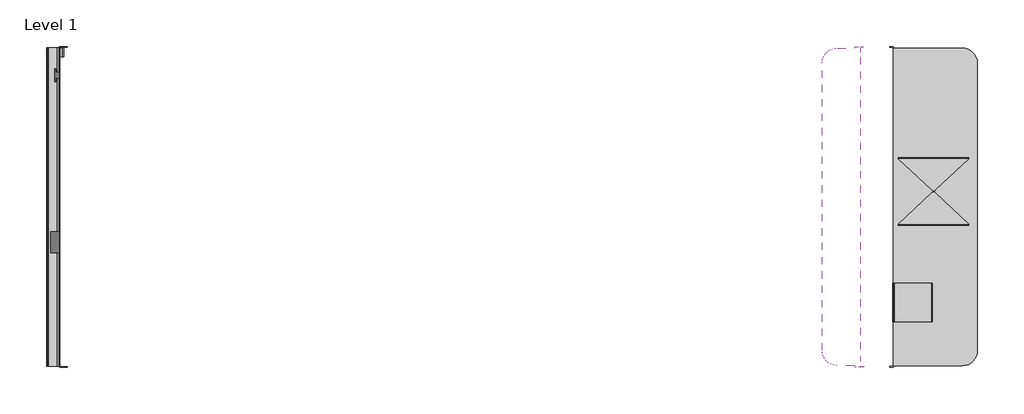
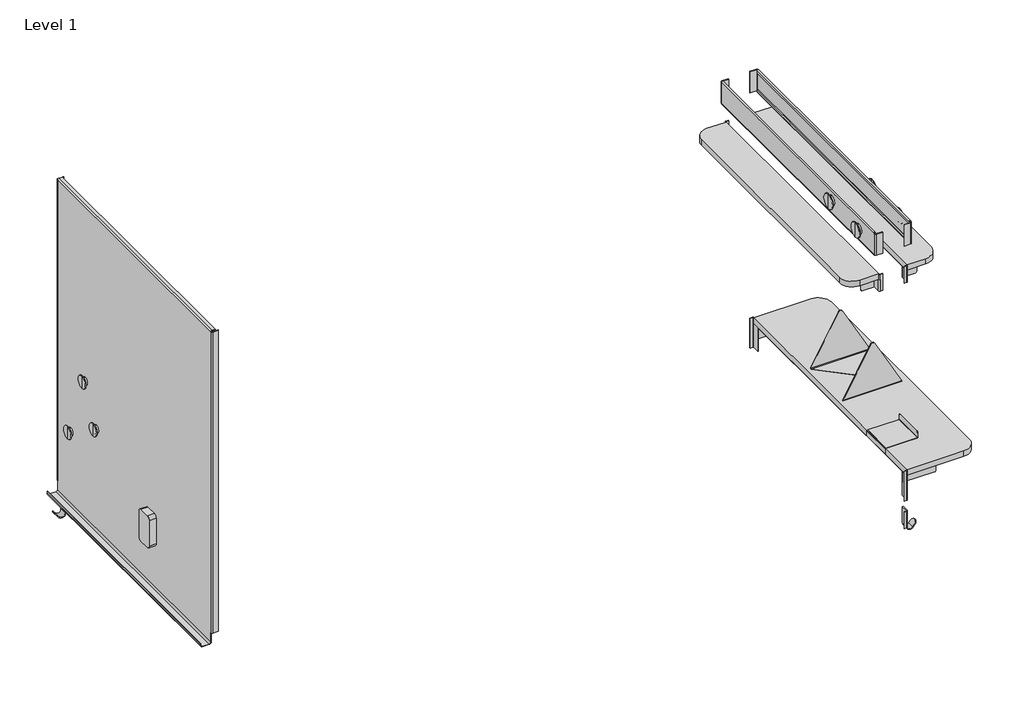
# One storey, incomplete: 3 proxies.
"""IFC4 building model written with IfcOpenShell, lengths in millimetres."""

from ifc_helpers import new_model, si_unit, origin, place, context, project, spatial, transform, mapped, element, save
from components import library_set_matte_black_a84b912c, library_set_matte_black_280bab07, library_set_matte_black_0ce7756b, note_set_matte_black_98218ece

model = new_model("IFC4")

# Units and contexts
model_context = context("Model", 3, world=origin())
ifc_project = project(units=[si_unit("LENGTHUNIT", "METRE", prefix="MILLI")], contexts=[model_context])

# Site, building, storey
site = spatial("IfcSite", under=ifc_project)
building = spatial("IfcBuilding", under=site)
storey = spatial("IfcBuildingStorey", under=building, Name="Level 1", Elevation=0.0)

# Proxies
placement = place(None, origin())
library_set_matte_black_shape = library_set_matte_black_a84b912c(model_context)
library_set_matte_black_2_shape = library_set_matte_black_280bab07(model_context)
element("IfcBuildingElementProxy", 1, Name="Library set : Matte black", ObjectType="Library set : Matte black", at=placement, inside=storey, context=model_context, shape_type="MappedRepresentation", body=[
    mapped(library_set_matte_black_shape, transform((-410.6347368, -682.8766521, 0.0), x_axis=(0.0, 1.0, 0.0), y_axis=(-1.0, 0.0, 0.0), z_axis=(0.0, 0.0, 1.0))),
    mapped(library_set_matte_black_2_shape, transform((-410.6347368, -682.8766521, 0.0), x_axis=(0.0, 1.0, 0.0), y_axis=(-1.0, 0.0, 0.0), z_axis=(0.0, 0.0, 1.0))),
])
library_set_matte_black_3_shape = library_set_matte_black_0ce7756b(model_context)
element("IfcBuildingElementProxy", 2, Name="Library set : Matte black", ObjectType="Library set : Matte black", at=placement, inside=storey, context=model_context, shape_type="MappedRepresentation", body=[
    mapped(library_set_matte_black_3_shape, transform((-486.9352924, -682.8766521, 0.0), x_axis=(0.0, 1.0, 0.0), y_axis=(-1.0, 0.0, 0.0), z_axis=(0.0, 0.0, 1.0))),
])
note_set_matte_black_shape = note_set_matte_black_98218ece(model_context)
element("IfcBuildingElementProxy", 3, Name="Note set : Matte black", ObjectType="Note set : Matte black", at=placement, inside=storey, context=model_context, shape_type="MappedRepresentation", body=[
    mapped(note_set_matte_black_shape, transform((-2568.9352924, -682.9728919, 0.0), x_axis=(0.0, -1.0, 0.0), y_axis=(1.0, 0.0, 0.0), z_axis=(0.0, 0.0, 1.0))),
])

save(model, "model.ifc")
